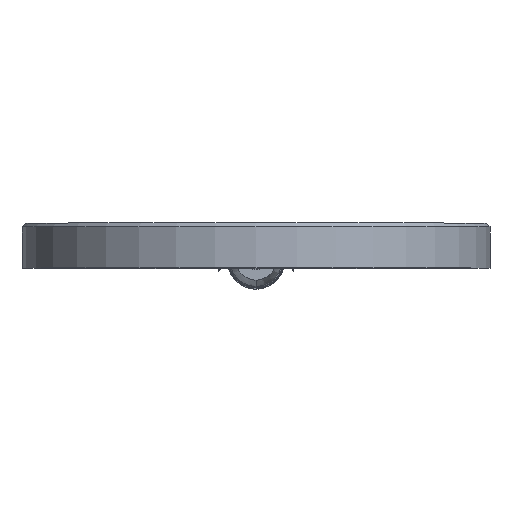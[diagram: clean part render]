
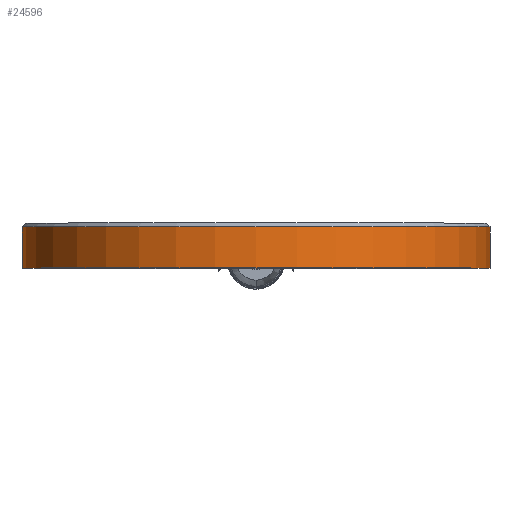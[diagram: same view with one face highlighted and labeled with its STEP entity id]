
A CAD part, top view. The second image highlights one B-rep face of the part: STEP entity #24596.
In plain terms, the highlighted cylindrical face has radius 62.5 mm (diameter 125 mm), a partial arc.
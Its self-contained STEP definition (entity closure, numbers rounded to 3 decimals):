
#1917 = DIRECTION ( 'NONE',  ( 0., 1., 0. ) ) ;
#2959 = ORIENTED_EDGE ( 'NONE', *, *, #14938, .T. ) ;
#3338 = EDGE_LOOP ( 'NONE', ( #22749, #11418, #2959, #26571 ) ) ;
#3748 = DIRECTION ( 'NONE',  ( 0., 1., 0. ) ) ;
#3836 = VECTOR ( 'NONE', #31010, 1000. ) ;
#3874 = AXIS2_PLACEMENT_3D ( 'NONE', #23917, #1917, #9167 ) ;
#4666 = DIRECTION ( 'NONE',  ( -1., 0., 0. ) ) ;
#5198 = CARTESIAN_POINT ( 'NONE',  ( -62.5, 0., 0. ) ) ;
#7521 = EDGE_CURVE ( 'NONE', #26581, #21522, #28498, .T. ) ;
#8628 = DIRECTION ( 'NONE',  ( 1., 0., 0. ) ) ;
#9167 = DIRECTION ( 'NONE',  ( 1., 0., 0. ) ) ;
#9498 = AXIS2_PLACEMENT_3D ( 'NONE', #20569, #3748, #8628 ) ;
#10610 = DIRECTION ( 'NONE',  ( 0., 1., 0. ) ) ;
#10823 = FACE_OUTER_BOUND ( 'NONE', #3338, .T. ) ;
#11418 = ORIENTED_EDGE ( 'NONE', *, *, #7521, .T. ) ;
#12669 = EDGE_CURVE ( 'NONE', #26581, #28715, #26282, .T. ) ;
#12784 = CARTESIAN_POINT ( 'NONE',  ( 62.5, 11., 0. ) ) ;
#14938 = EDGE_CURVE ( 'NONE', #21522, #20764, #15625, .T. ) ;
#15625 = LINE ( 'NONE', #29646, #21373 ) ;
#16900 = CARTESIAN_POINT ( 'NONE',  ( 0., 11., 0. ) ) ;
#17289 = EDGE_CURVE ( 'NONE', #20764, #28715, #27551, .T. ) ;
#20569 = CARTESIAN_POINT ( 'NONE',  ( 0., 12., 0. ) ) ;
#20764 = VERTEX_POINT ( 'NONE', #12784 ) ;
#21373 = VECTOR ( 'NONE', #10610, 1000. ) ;
#21522 = VERTEX_POINT ( 'NONE', #24813 ) ;
#22749 = ORIENTED_EDGE ( 'NONE', *, *, #12669, .F. ) ;
#22901 = CYLINDRICAL_SURFACE ( 'NONE', #9498, 62.5 ) ;
#23491 = CARTESIAN_POINT ( 'NONE',  ( -62.5, 11., 0. ) ) ;
#23910 = CARTESIAN_POINT ( 'NONE',  ( -62.5, 12., 0. ) ) ;
#23917 = CARTESIAN_POINT ( 'NONE',  ( 0., 0., 0. ) ) ;
#24596 = ADVANCED_FACE ( 'NONE', ( #10823 ), #22901, .T. ) ;
#24813 = CARTESIAN_POINT ( 'NONE',  ( 62.5, 0., 0. ) ) ;
#26282 = LINE ( 'NONE', #23910, #3836 ) ;
#26571 = ORIENTED_EDGE ( 'NONE', *, *, #17289, .T. ) ;
#26581 = VERTEX_POINT ( 'NONE', #5198 ) ;
#27551 = CIRCLE ( 'NONE', #29543, 62.5 ) ;
#28498 = CIRCLE ( 'NONE', #3874, 62.5 ) ;
#28715 = VERTEX_POINT ( 'NONE', #23491 ) ;
#29543 = AXIS2_PLACEMENT_3D ( 'NONE', #16900, #30766, #4666 ) ;
#29646 = CARTESIAN_POINT ( 'NONE',  ( 62.5, 12., 0. ) ) ;
#30766 = DIRECTION ( 'NONE',  ( 0., -1., 0. ) ) ;
#31010 = DIRECTION ( 'NONE',  ( 0., 1., 0. ) ) ;
